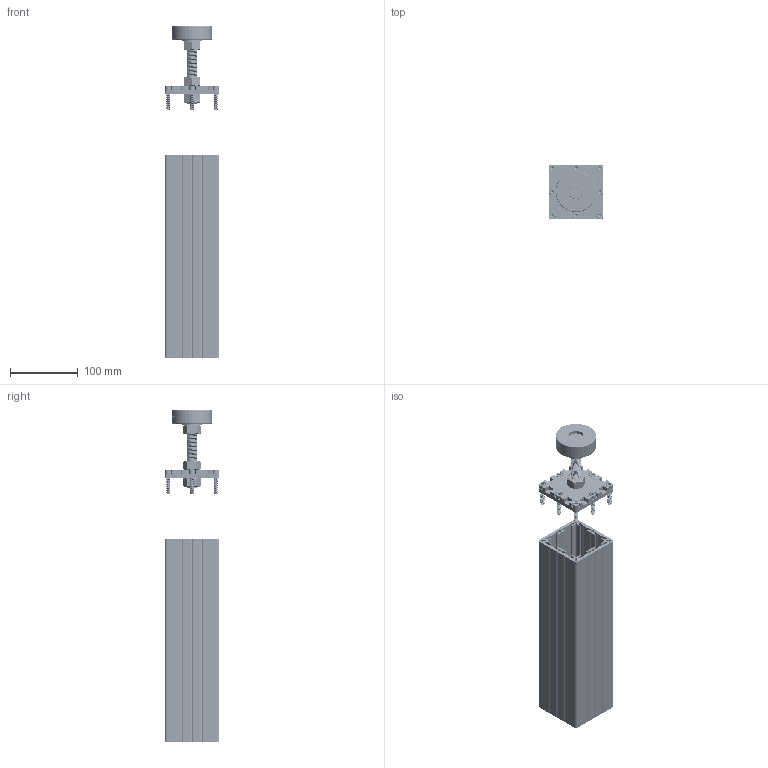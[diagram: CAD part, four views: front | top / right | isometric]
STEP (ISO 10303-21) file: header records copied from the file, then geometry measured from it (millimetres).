
FILE_DESCRIPTION (( 'STEP AP214' ), '1' );
FILE_NAME ('TS-8080-PLATE-M16.STEP', '2026-09-16T11:27:34', ( '' ), ( '' ), 'SwSTEP 2.0', 'SolidWorks 2022', '' );
FILE_SCHEMA (( 'AUTOMOTIVE_DESIGN' ));
Length unit declared in the file: millimetre
Products named in the file (8): TS-8080-PLATE-M16_TS-8080-Connector; Винт DIN912 (полуцилиндр) кл. пр. 8.8_М6х30; Part1-16; Part2-16_TS-8080-Connector; D60M16H95; TS-8080-PLATE-M16; Гайка DIN934_M16; TS-8080-6060 Профиль телескопический 80х80 (Анодированный)_L=300 мм
Assembly tree (14 placements, depth 3):
  TS-8080-PLATE-M16
    TS-8080-PLATE-M16_TS-8080-Connector
      Part1-16
      Part2-16_TS-8080-Connector
      Гайка DIN934_M16
    Винт DIN912 (полуцилиндр) кл. пр. 8.8_М6х30  x8
    TS-8080-6060 Профиль телескопический 80х80 (Анодированный)_L=300 мм
    D60M16H95
Bounding box: 80 x 80 x 490.5 mm (x, y, z)
Volume: 675436.6 mm3; surface area: 367879.9 mm2
Topology: 17 solids, 17 shells, 1547 faces, 4337 edges, 2835 vertices
Faces by surface type: cylinder 934, plane 380, bspline 126, cone 71, torus 36
Entity records: 64180 total; most frequent: CARTESIAN_POINT 40393, ORIENTED_EDGE 5198, DIRECTION 4125, EDGE_CURVE 2599, VERTEX_POINT 1715, AXIS2_PLACEMENT_3D 1487, LINE 1151, VECTOR 1151
